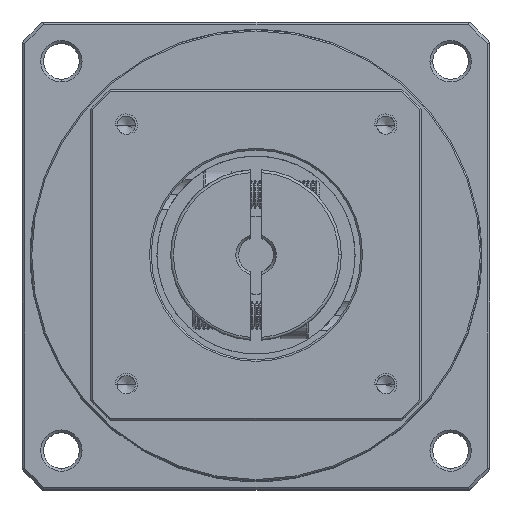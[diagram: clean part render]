
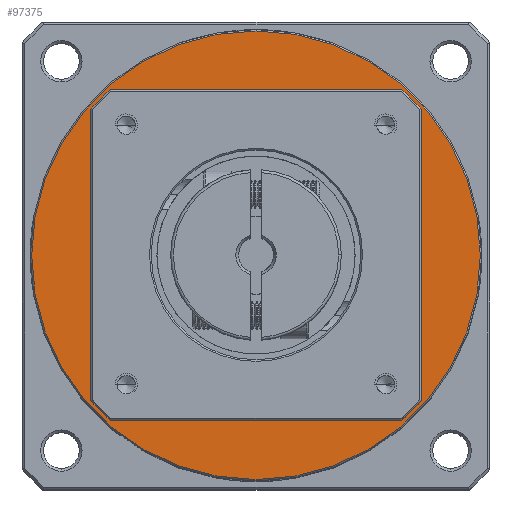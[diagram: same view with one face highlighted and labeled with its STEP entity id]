
A CAD part, top view. The second image highlights one B-rep face of the part: STEP entity #97375.
In plain terms, the highlighted planar face has unit normal (0, 0, 1).
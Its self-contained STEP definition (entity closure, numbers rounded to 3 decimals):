
#8806 = DIRECTION ( 'NONE',  ( 0., 0., -1. ) ) ;
#9078 = CARTESIAN_POINT ( 'NONE',  ( -18.852, 24.503, -29.475 ) ) ;
#9720 = CIRCLE ( 'NONE', #10989, 30. ) ;
#10989 = AXIS2_PLACEMENT_3D ( 'NONE', #61331, #8806, #70218 ) ;
#12756 = AXIS2_PLACEMENT_3D ( 'NONE', #25348, #86896, #34159 ) ;
#14714 = EDGE_CURVE ( 'NONE', #76426, #53079, #57551, .T. ) ;
#17146 = DIRECTION ( 'NONE',  ( 0., 0., -1. ) ) ;
#18609 = EDGE_LOOP ( 'NONE', ( #113965, #53442 ) ) ;
#19883 = VERTEX_POINT ( 'NONE', #113143 ) ;
#25348 = CARTESIAN_POINT ( 'NONE',  ( -59.602, 24.503, -29.475 ) ) ;
#32138 = CARTESIAN_POINT ( 'NONE',  ( -100.352, 24.503, -29.475 ) ) ;
#34159 = DIRECTION ( 'NONE',  ( -1., 0., 0. ) ) ;
#36822 = CARTESIAN_POINT ( 'NONE',  ( -59.602, 24.503, -29.475 ) ) ;
#39170 = DIRECTION ( 'NONE',  ( 0., 0., 1. ) ) ;
#41844 = ORIENTED_EDGE ( 'NONE', *, *, #83596, .T. ) ;
#45663 = DIRECTION ( 'NONE',  ( -1., 0., 0. ) ) ;
#53079 = VERTEX_POINT ( 'NONE', #9078 ) ;
#53442 = ORIENTED_EDGE ( 'NONE', *, *, #67892, .F. ) ;
#56472 = PLANE ( 'NONE',  #60498 ) ;
#57551 = CIRCLE ( 'NONE', #12756, 40.75 ) ;
#60498 = AXIS2_PLACEMENT_3D ( 'NONE', #91969, #39170, #100856 ) ;
#61331 = CARTESIAN_POINT ( 'NONE',  ( -59.602, 24.503, -29.475 ) ) ;
#63051 = AXIS2_PLACEMENT_3D ( 'NONE', #69747, #17146, #78678 ) ;
#65643 = EDGE_CURVE ( 'NONE', #98404, #19883, #70019, .T. ) ;
#67892 = EDGE_CURVE ( 'NONE', #53079, #76426, #82928, .T. ) ;
#69747 = CARTESIAN_POINT ( 'NONE',  ( -59.602, 24.503, -29.475 ) ) ;
#70019 = CIRCLE ( 'NONE', #107850, 30. ) ;
#70218 = DIRECTION ( 'NONE',  ( -1., 0., 0. ) ) ;
#71286 = FACE_BOUND ( 'NONE', #84930, .T. ) ;
#76426 = VERTEX_POINT ( 'NONE', #32138 ) ;
#78678 = DIRECTION ( 'NONE',  ( -1., 0., 0. ) ) ;
#82928 = CIRCLE ( 'NONE', #63051, 40.75 ) ;
#83596 = EDGE_CURVE ( 'NONE', #19883, #98404, #9720, .T. ) ;
#84930 = EDGE_LOOP ( 'NONE', ( #41844, #104591 ) ) ;
#86896 = DIRECTION ( 'NONE',  ( 0., 0., -1. ) ) ;
#91969 = CARTESIAN_POINT ( 'NONE',  ( -59.602, 24.503, -29.475 ) ) ;
#94806 = FACE_OUTER_BOUND ( 'NONE', #18609, .T. ) ;
#97375 = ADVANCED_FACE ( 'NONE', ( #94806, #71286 ), #56472, .T. ) ;
#98404 = VERTEX_POINT ( 'NONE', #100754 ) ;
#98480 = DIRECTION ( 'NONE',  ( 0., 0., -1. ) ) ;
#100754 = CARTESIAN_POINT ( 'NONE',  ( -29.602, 24.503, -29.475 ) ) ;
#100856 = DIRECTION ( 'NONE',  ( 1., 0., 0. ) ) ;
#104591 = ORIENTED_EDGE ( 'NONE', *, *, #65643, .T. ) ;
#107850 = AXIS2_PLACEMENT_3D ( 'NONE', #36822, #98480, #45663 ) ;
#113143 = CARTESIAN_POINT ( 'NONE',  ( -89.602, 24.503, -29.475 ) ) ;
#113965 = ORIENTED_EDGE ( 'NONE', *, *, #14714, .F. ) ;
